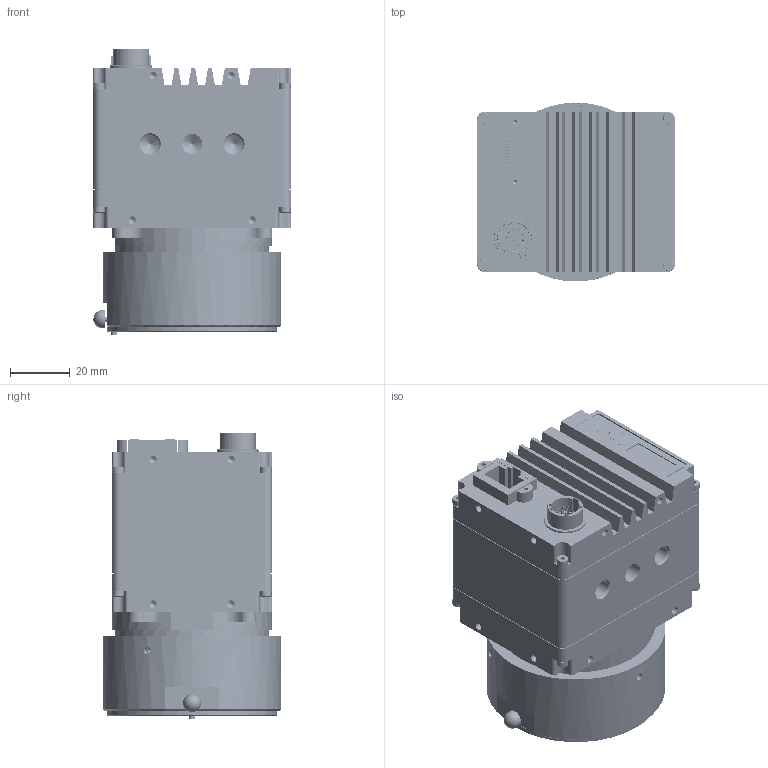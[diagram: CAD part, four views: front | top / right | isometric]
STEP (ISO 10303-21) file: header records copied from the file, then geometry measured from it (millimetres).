
FILE_DESCRIPTION (( 'STEP AP203' ), '1' );
FILE_NAME ('GT LF IMX F-MOUNT COLOR CAMERA.STEP', '2019-10-31T15:43:10', ( '' ), ( '' ), 'SwSTEP 2.0', 'SolidWorks 2018', '' );
FILE_SCHEMA (( 'CONFIG_CONTROL_DESIGN' ));
Products named in the file (1): GT LF IMX F-MOUNT COLOR CAMERA
Bounding box: 66.04 x 59.7 x 95.44 mm (x, y, z)
Volume: 119579.4 mm3; surface area: 108559.3 mm2
Topology: 375 solids, 375 shells, 23504 faces, 58059 edges, 38214 vertices
Faces by surface type: plane 16413, cylinder 5186, torus 1024, bspline 430, cone 290, sphere 161
Entity records: 715217 total; most frequent: CARTESIAN_POINT 151080, ORIENTED_EDGE 115268, DIRECTION 115188, EDGE_CURVE 57634, LINE 43252, VECTOR 43252, VERTEX_POINT 38044, AXIS2_PLACEMENT_3D 35968
